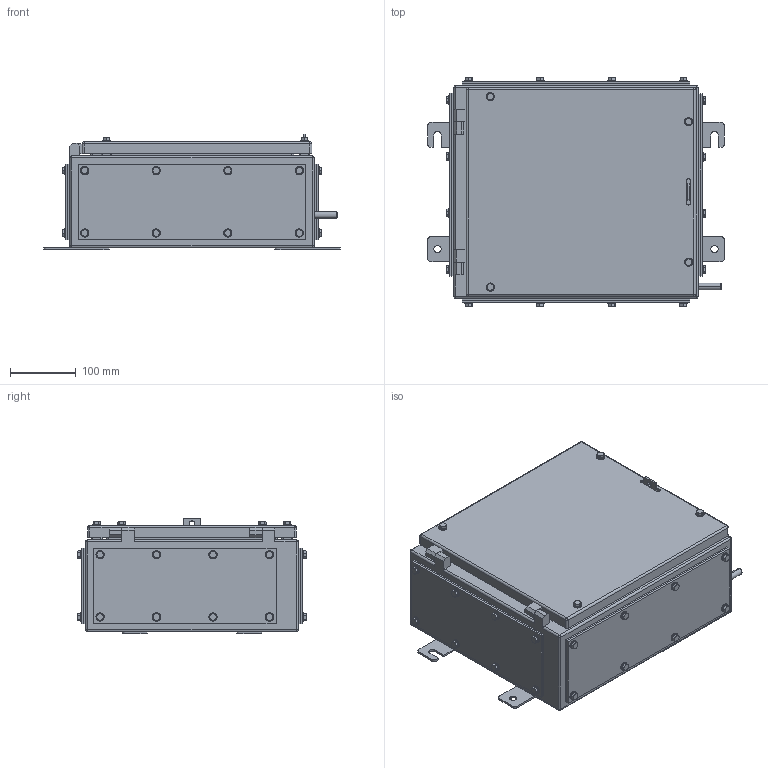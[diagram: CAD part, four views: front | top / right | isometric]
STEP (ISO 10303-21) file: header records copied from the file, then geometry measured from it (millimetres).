
FILE_DESCRIPTION (( 'STEP AP203' ), '1' );
FILE_NAME ('SX2_140_4GP.STEP', '2021-05-20T09:41:24', ( '' ), ( '' ), 'SwSTEP 2.0', 'SolidWorks 2020', '' );
FILE_SCHEMA (( 'CONFIG_CONTROL_DESIGN' ));
Length unit declared in the file: millimetre
Products named in the file (10): SX2-140 Base Gland plate; SX2_140_4GP Body; hex screw gradec_bsi_BS EN 24018 - M6 x 16-WN; SX2 Door; SX2_140_4GP; SX2-140 side Gasket; hex screw gradec_bsi_BS EN 24018 - M6 x 20-WN; SX2-140 side Gland plate; SX2-140 Base Gasket; plain washer form a_bsi_Bright washer BS 4320 - M6 (Form A)
Assembly tree (82 placements, depth 2):
  SX2_140_4GP
    SX2 Door
    hex screw gradec_bsi_BS EN 24018 - M6 x 16-WN  x32
    hex screw gradec_bsi_BS EN 24018 - M6 x 20-WN  x4
    plain washer form a_bsi_Bright washer BS 4320 - M6 (Form A)  x36
    SX2_140_4GP Body
    SX2-140 Base Gasket  x2
    SX2-140 Base Gland plate  x2
    SX2-140 side Gasket  x2
    SX2-140 side Gland plate  x2
Bounding box: 452 x 347.95 x 176 mm (x, y, z)
Volume: 1586707.1 mm3; surface area: 1361224.2 mm2
Topology: 82 solids, 82 shells, 1966 faces, 4306 edges, 2600 vertices
Faces by surface type: plane 898, cylinder 724, cone 296, sphere 40, torus 8
Entity records: 24350 total; most frequent: DIRECTION 4084, CARTESIAN_POINT 3655, ORIENTED_EDGE 3332, EDGE_CURVE 1666, AXIS2_PLACEMENT_3D 1621, VERTEX_POINT 1048, EDGE_LOOP 930, VECTOR 842
